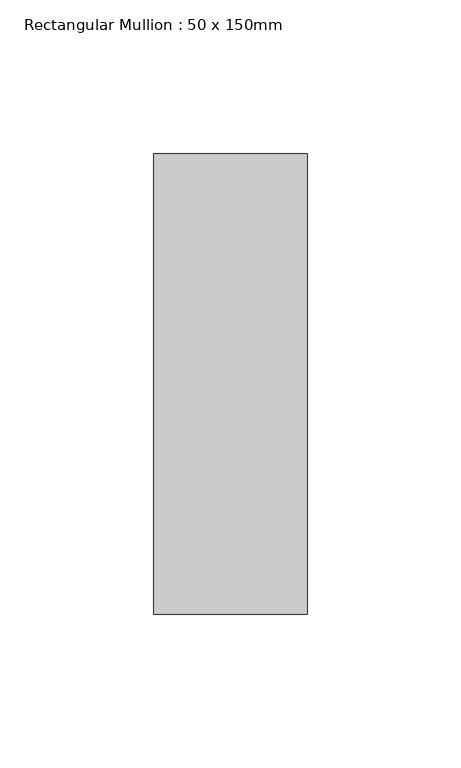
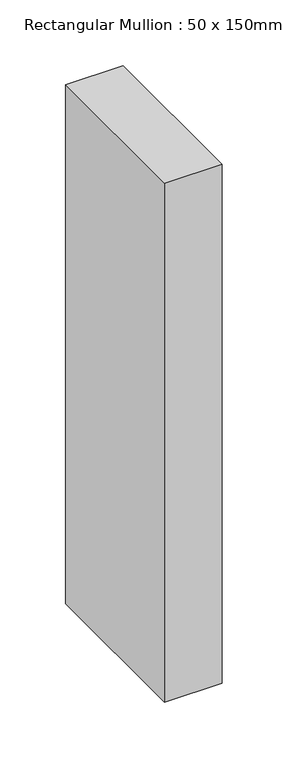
"""IFC4 building model written with IfcOpenShell, lengths in millimetres: member geometry, Rectangular Mullion : 50 x 150mm."""

from ifc_helpers import new_model, si_unit, frame, origin, place, context, project, spatial, polyline, outline, extrude, source, transform, mapped, element, save


def rectangular_mullion_50_x_150mm_ae5d5628(model_context):
    return source(origin(), model_context, "Body", "SweptSolid", [
        extrude(outline(polyline([(0.0, 75.0), (0.0, -75.0), (-50.0, -75.0), (-50.0, 75.0), (0.0, 75.0)])), frame((0.0, 0.0, -480.0), z_axis=(0.0, 0.0, 1.0), x_axis=(1.0, 0.0, 0.0)), (0.0, 0.0, 1.0), 480.0),
    ])


if __name__ == "__main__":
    model = new_model("IFC4")
    model_context = context("Model", 3, world=origin())
    ifc_project = project(units=[si_unit("LENGTHUNIT", "METRE", prefix="MILLI")], contexts=[model_context])
    site = spatial("IfcSite", under=ifc_project)
    building = spatial("IfcBuilding", under=site)
    placement = place(None, origin())
    rectangular_mullion_50_x_150mm_shape = rectangular_mullion_50_x_150mm_ae5d5628(model_context)
    element("IfcMember", 1, ObjectType="Rectangular Mullion : 50 x 150mm", at=placement, inside=building, context=model_context, shape_type="MappedRepresentation", body=[
        mapped(rectangular_mullion_50_x_150mm_shape, transform((0.0, 0.0, 0.0), x_axis=(1.0, 0.0, 0.0), y_axis=(0.0, 1.0, 0.0), z_axis=(0.0, 0.0, 1.0))),
    ])
    save(model, "model.ifc")
